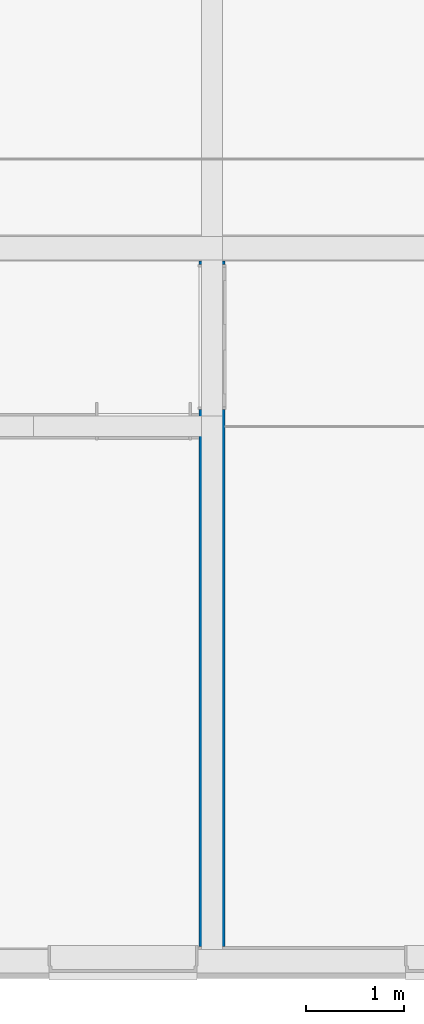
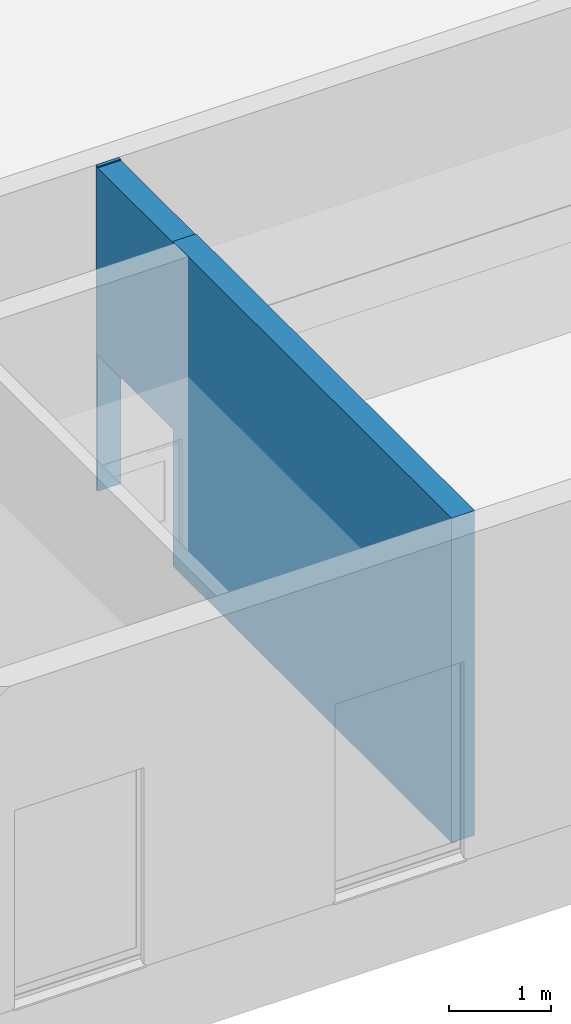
# One storey, part 14 of 22: 1 wall, 2 openings.
"""IFC4X3 building model written with IfcOpenShell, lengths in millimetres."""

from ifc_helpers import new_model, entity, si_unit, converted_unit, derived_unit, direction, frame, frame_2d, origin, origin_2d_with_axis, place, context, subcontext, project, spatial, rectangle, extrude, material, layer, layer_set, type_object, element, save


model = new_model("IFC4X3")

# Units and contexts
model_context = context("Model", 3, precision=0.01, world=origin(), true_north=direction((6.12303176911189e-17, 1.0)))
body_context = subcontext(model_context, "Body", "Model", "MODEL_VIEW")
ifc_project = project(units=[si_unit("LENGTHUNIT", "METRE", prefix="MILLI"), si_unit("AREAUNIT", "SQUARE_METRE"), si_unit("VOLUMEUNIT", "CUBIC_METRE"), converted_unit("PLANEANGLEUNIT", "DEGREE", entity("IfcPlaneAngleMeasure", 0.0174532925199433), si_unit("PLANEANGLEUNIT", "RADIAN"), dimensions=[0, 0, 0, 0, 0, 0, 0]), si_unit("MASSUNIT", "GRAM", prefix="KILO"), derived_unit("MASSDENSITYUNIT", [(si_unit("MASSUNIT", "GRAM", prefix="KILO"), 1), (si_unit("LENGTHUNIT", "METRE"), -3)]), derived_unit("IONCONCENTRATIONUNIT", [(si_unit("MASSUNIT", "GRAM", prefix="KILO"), 1), (si_unit("LENGTHUNIT", "METRE"), -3)]), derived_unit("MOMENTOFINERTIAUNIT", [(si_unit("LENGTHUNIT", "METRE"), 4)]), si_unit("TIMEUNIT", "SECOND"), si_unit("FREQUENCYUNIT", "HERTZ"), si_unit("THERMODYNAMICTEMPERATUREUNIT", "DEGREE_CELSIUS"), derived_unit("THERMALTRANSMITTANCEUNIT", [(si_unit("MASSUNIT", "GRAM", prefix="KILO"), 1), (si_unit("THERMODYNAMICTEMPERATUREUNIT", "KELVIN"), -1), (si_unit("TIMEUNIT", "SECOND"), -3)]), derived_unit("THERMALCONDUCTANCEUNIT", [(si_unit("MASSUNIT", "GRAM", prefix="KILO"), 1), (si_unit("THERMODYNAMICTEMPERATUREUNIT", "KELVIN"), -1), (si_unit("TIMEUNIT", "SECOND"), -3), (si_unit("LENGTHUNIT", "METRE"), 1)]), derived_unit("VOLUMETRICFLOWRATEUNIT", [(si_unit("LENGTHUNIT", "METRE", prefix="DECI"), 3), (si_unit("TIMEUNIT", "SECOND"), -1)]), derived_unit("MASSFLOWRATEUNIT", [(si_unit("MASSUNIT", "GRAM", prefix="KILO"), 1), (si_unit("TIMEUNIT", "SECOND"), -1)]), derived_unit("ROTATIONALFREQUENCYUNIT", [(si_unit("TIMEUNIT", "SECOND"), -1)]), si_unit("ELECTRICCURRENTUNIT", "AMPERE"), si_unit("ELECTRICVOLTAGEUNIT", "VOLT"), si_unit("POWERUNIT", "WATT"), si_unit("FORCEUNIT", "NEWTON", prefix="KILO"), si_unit("ILLUMINANCEUNIT", "LUX"), si_unit("LUMINOUSFLUXUNIT", "LUMEN"), si_unit("LUMINOUSINTENSITYUNIT", "CANDELA"), si_unit("ENERGYUNIT", "JOULE"), derived_unit("USERDEFINED", [(si_unit("MASSUNIT", "GRAM", prefix="KILO"), -1), (si_unit("LENGTHUNIT", "METRE"), -2), (si_unit("TIMEUNIT", "SECOND"), 3), (si_unit("LUMINOUSFLUXUNIT", "LUMEN"), 1)]), derived_unit("USERDEFINED", [(si_unit("MASSUNIT", "GRAM", prefix="KILO"), 1), (si_unit("TIMEUNIT", "SECOND"), -3), (si_unit("LENGTHUNIT", "METRE"), 3), (si_unit("ELECTRICCURRENTUNIT", "AMPERE"), -2)]), derived_unit("SOUNDPOWERUNIT", [(si_unit("MASSUNIT", "GRAM", prefix="KILO"), 1), (si_unit("TIMEUNIT", "SECOND"), -3), (si_unit("LENGTHUNIT", "METRE"), 2)]), derived_unit("SOUNDPRESSUREUNIT", [(si_unit("MASSUNIT", "GRAM", prefix="KILO"), 1), (si_unit("LENGTHUNIT", "METRE"), -1), (si_unit("TIMEUNIT", "SECOND"), -2)]), derived_unit("LINEARVELOCITYUNIT", [(si_unit("LENGTHUNIT", "METRE"), 1), (si_unit("TIMEUNIT", "SECOND"), -1)]), si_unit("PRESSUREUNIT", "PASCAL"), derived_unit("USERDEFINED", [(si_unit("MASSUNIT", "GRAM", prefix="KILO"), 1), (si_unit("LENGTHUNIT", "METRE"), -2), (si_unit("TIMEUNIT", "SECOND"), -2)]), derived_unit("LINEARFORCEUNIT", [(si_unit("MASSUNIT", "GRAM", prefix="KILO"), 1), (si_unit("TIMEUNIT", "SECOND"), -2)]), derived_unit("PLANARFORCEUNIT", [(si_unit("MASSUNIT", "GRAM", prefix="KILO"), 1), (si_unit("LENGTHUNIT", "METRE"), -1), (si_unit("TIMEUNIT", "SECOND"), -2)]), derived_unit("SPECIFICHEATCAPACITYUNIT", [(si_unit("THERMODYNAMICTEMPERATUREUNIT", "KELVIN"), -1), (si_unit("LENGTHUNIT", "METRE"), 2), (si_unit("TIMEUNIT", "SECOND"), -2)]), derived_unit("HEATFLUXDENSITYUNIT", [(si_unit("MASSUNIT", "GRAM", prefix="KILO"), 1), (si_unit("TIMEUNIT", "SECOND"), -3)]), derived_unit("HEATINGVALUEUNIT", [(si_unit("LENGTHUNIT", "METRE"), 2), (si_unit("TIMEUNIT", "SECOND"), -2)]), derived_unit("VAPORPERMEABILITYUNIT", [(si_unit("LENGTHUNIT", "METRE"), -1), (si_unit("TIMEUNIT", "SECOND"), 1)]), derived_unit("DYNAMICVISCOSITYUNIT", [(si_unit("MASSUNIT", "GRAM", prefix="KILO"), 1), (si_unit("TIMEUNIT", "SECOND"), -1), (si_unit("LENGTHUNIT", "METRE"), -1)]), derived_unit("THERMALEXPANSIONCOEFFICIENTUNIT", [(si_unit("THERMODYNAMICTEMPERATUREUNIT", "KELVIN"), -1)]), derived_unit("MODULUSOFELASTICITYUNIT", [(si_unit("MASSUNIT", "GRAM", prefix="KILO"), 1), (si_unit("LENGTHUNIT", "METRE"), -1), (si_unit("TIMEUNIT", "SECOND"), -2)]), derived_unit("ISOTHERMALMOISTURECAPACITYUNIT", [(si_unit("MASSUNIT", "GRAM", prefix="KILO"), -1), (si_unit("LENGTHUNIT", "METRE"), 3)]), derived_unit("MOISTUREDIFFUSIVITYUNIT", [(si_unit("TIMEUNIT", "SECOND"), -1), (si_unit("LENGTHUNIT", "METRE"), 2)]), derived_unit("AREADENSITYUNIT", [(si_unit("MASSUNIT", "GRAM", prefix="KILO"), 1), (si_unit("LENGTHUNIT", "METRE"), 2)]), derived_unit("MASSPERLENGTHUNIT", [(si_unit("MASSUNIT", "GRAM", prefix="KILO"), 1), (si_unit("LENGTHUNIT", "METRE"), -1)]), derived_unit("THERMALRESISTANCEUNIT", [(si_unit("MASSUNIT", "GRAM", prefix="KILO"), -1), (si_unit("TIMEUNIT", "SECOND"), 3), (si_unit("THERMODYNAMICTEMPERATUREUNIT", "KELVIN"), 1)]), derived_unit("ACCELERATIONUNIT", [(si_unit("LENGTHUNIT", "METRE"), 1), (si_unit("TIMEUNIT", "SECOND"), -2)]), derived_unit("ANGULARVELOCITYUNIT", [(si_unit("TIMEUNIT", "SECOND"), -1), (si_unit("PLANEANGLEUNIT", "RADIAN"), 1)]), derived_unit("LINEARSTIFFNESSUNIT", [(si_unit("MASSUNIT", "GRAM", prefix="KILO"), 1), (si_unit("TIMEUNIT", "SECOND"), -2)]), derived_unit("WARPINGCONSTANTUNIT", [(si_unit("LENGTHUNIT", "METRE"), 6)]), derived_unit("LINEARMOMENTUNIT", [(si_unit("MASSUNIT", "GRAM", prefix="KILO"), 1), (si_unit("LENGTHUNIT", "METRE"), 1), (si_unit("TIMEUNIT", "SECOND"), -2)]), derived_unit("TORQUEUNIT", [(si_unit("MASSUNIT", "GRAM", prefix="KILO"), 1), (si_unit("LENGTHUNIT", "METRE"), 2), (si_unit("TIMEUNIT", "SECOND"), -2)])], contexts=[model_context])

# Site, building, storey
site_placement = place(None, origin())
site = spatial("IfcSite", under=ifc_project, at=site_placement, Name="Default", CompositionType="ELEMENT")
building_placement = place(site_placement, origin())
building = spatial("IfcBuilding", under=site, at=building_placement, Name="事務所ビル", CompositionType="ELEMENT")
storey_placement = place(building_placement, origin())
storey = spatial("IfcBuildingStorey", under=building, at=storey_placement, Name="1FL", CompositionType="ELEMENT", Elevation=0.0)

# Wall, openings
ifc_material_1 = material(Name="せっこうボード", Category="一般")
ifc_layer_1 = layer(ifc_material_1, 15.0, Name="せっこうボード", Category="一般")
ifc_material_2 = material(Name="合板", Category="一般")
ifc_layer_2 = layer(ifc_material_2, 12.0, Name="合板", Category="一般")
ifc_material_3 = material(Name="天然木材", Category="一般")
ifc_layer_3 = layer(ifc_material_3, 210.0, Name="天然木材", Category="一般")
ifc_layer_4 = layer(ifc_material_2, 12.0, Name="合板", Category="一般")
ifc_layer_5 = layer(ifc_material_1, 15.0, Name="せっこうボード", Category="一般")
ifc_layer_set = layer_set([ifc_layer_1, ifc_layer_2, ifc_layer_3, ifc_layer_4, ifc_layer_5], Name="標準壁:GB-R15_構造用合板12_木210_構造用合板12_GB-R15")
wall_type = type_object("IfcWallType", Name="標準壁:GB-R15_構造用合板12_木210_構造用合板12_GB-R15", PredefinedType="STANDARD", material=ifc_layer_set)
wall_placement = place(storey_placement, frame((38220.0, 147.0, 400.0), z_axis=(0.0, 0.0, 1.0), x_axis=(0.0, 1.0, 0.0)))
wall = element("IfcWall", 1, at=wall_placement, inside=storey, type_object=wall_type, material=ifc_layer_set, Name="標準壁:GB-R15_構造用合板12_木210_構造用合板12_GB-R15", ObjectType="標準壁:GB-R15_構造用合板12_木210_構造用合板12_GB-R15", PredefinedType="NOTDEFINED", context=body_context, shape_type="SweptSolid", body=[
    extrude(rectangle(XDim=7001.00000000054, YDim=264.000000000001, at=frame_2d((3500.50000000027, -2.41584530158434e-13), x_axis=(-1.0, 0.0))), origin(), (0.0, 0.0, 1.0), 3900.0),
])
opening_1_placement = place(wall_placement, frame((-147.0, 38220.0, 3900.0)))
element("IfcOpeningElement", 2, at=opening_1_placement, cuts=wall, Name="標準壁:GB-R15_構造用合板12_木210_構造用合板12_GB-R15", PredefinedType="OPENING", context=body_context, shape_type="SweptSolid", body=[
    extrude(rectangle(XDim=2055.00000000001, YDim=1480.0, at=origin_2d_with_axis()), frame((6370.0, -39612.0, 1012.49999999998), z_axis=(0.0, 1.0, 0.0), x_axis=(0.0, 0.0, -1.0)), (0.0, 0.0, 1.0), 3048.0),
])
opening_2_placement = place(wall_placement, frame((6963.0, 132.0, -415.0)))
element("IfcOpeningElement", 3, at=opening_2_placement, cuts=wall, Name="鋼製_大枠_両開き_框:1400x2000:1", PredefinedType="OPENING", context=body_context, shape_type="SweptSolid", body=[
    extrude(rectangle(XDim=2055.00000000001, YDim=1480.0, at=frame_2d((1027.5, 740.0), x_axis=(-1.0, 0.0))), frame((0.0, 0.0, 0.0), z_axis=(0.0, -1.0, 0.0), x_axis=(0.0, 0.0, 1.0)), (0.0, 0.0, 1.0), 264.0),
])

save(model, "model.ifc")
